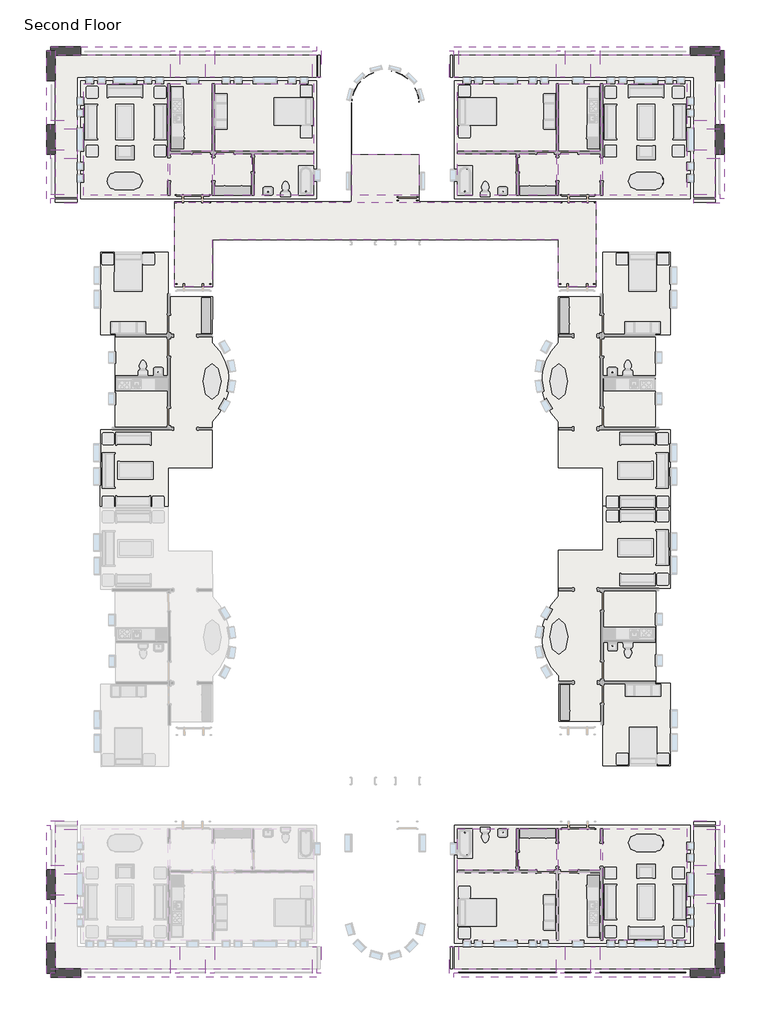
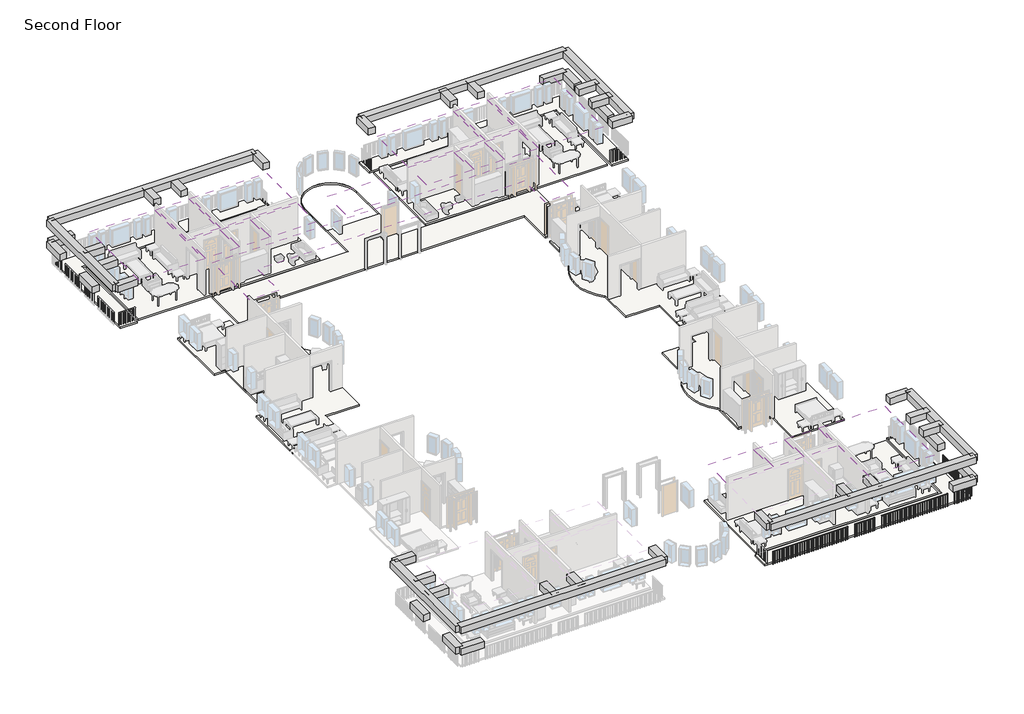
# One storey, part 4 of 6: 44 beams, 18 coverings, 10 slabs, 6 railings.
"""IFC4 building model written with IfcOpenShell, lengths in millimetres."""

from ifc_helpers import new_model, si_unit, point, frame, frame_2d, origin, place, context, project, spatial, polyline, circle_curve, trimmed, segment, composite_curve, outline, extrude, transform, mapped, element, save
from components import handrail_rectangular_774f5da6, handrail_rectangular_a4098ada, handrail_rectangular_c54c8a6b, handrail_rectangular_bb34a243, handrail_rectangular_81c71ed5, handrail_rectangular_95a948e3

model = new_model("IFC4")

# Units and contexts
model_context = context("Model", 3, world=origin())
ifc_project = project(units=[si_unit("LENGTHUNIT", "METRE", prefix="MILLI")], contexts=[model_context])

# Site, building, storey
site = spatial("IfcSite", under=ifc_project)
building = spatial("IfcBuilding", under=site)
storey = spatial("IfcBuildingStorey", under=building, Name="Second Floor", Elevation=3048.0)

# Beams
placement = place(None, origin())
element("IfcBeam", 1, ObjectType="Concrete-Rectangular Beam : 18 x 18", at=placement, inside=storey, context=model_context, shape_type="SweptSolid", body=[
    extrude(outline(polyline([(2322.5410437, -35349.9683133), (2322.5410437, -35807.1683133), (-11393.4589563, -35807.1683133), (-11393.4589563, -35349.9683133), (2322.5410437, -35349.9683133)])), frame((0.0, 0.0, 5638.8), z_axis=(0.0, 0.0, 1.0), x_axis=(1.0, 0.0, 0.0)), (0.0, 0.0, 1.0), 457.2),
])
element("IfcBeam", 2, ObjectType="Concrete-Rectangular Beam : 18 x 18", at=placement, inside=storey, context=model_context, shape_type="SweptSolid", body=[
    extrude(outline(polyline([(2093.9410437, -27958.5683133), (2551.1410437, -27958.5683133), (2551.1410437, -35578.5683133), (2093.9410437, -35578.5683133), (2093.9410437, -27958.5683133)])), frame((0.0, 0.0, 5638.8), z_axis=(0.0, 0.0, 1.0), x_axis=(1.0, 0.0, 0.0)), (0.0, 0.0, 1.0), 457.2),
])
element("IfcBeam", 3, ObjectType="Concrete-Rectangular Beam : 18 x 18", at=placement, inside=storey, context=model_context, shape_type="SweptSolid", body=[
    extrude(outline(polyline([(-11622.0589563, -34232.3683133), (-11164.8589563, -34232.3683133), (-11164.8589563, -35578.5683133), (-11622.0589563, -35578.5683133), (-11622.0589563, -34232.3683133)])), frame((0.0, 0.0, 5638.8), z_axis=(0.0, 0.0, 1.0), x_axis=(1.0, 0.0, 0.0)), (0.0, 0.0, 1.0), 457.2),
])
element("IfcBeam", 4, ObjectType="Concrete-Rectangular Beam : 18 x 18", at=placement, inside=storey, context=model_context, shape_type="SweptSolid", body=[
    extrude(outline(polyline([(976.3410437, -28187.1683133), (976.3410437, -27729.9683133), (2322.5410437, -27729.9683133), (2322.5410437, -28187.1683133), (976.3410437, -28187.1683133)])), frame((0.0, 0.0, 5638.8), z_axis=(0.0, 0.0, 1.0), x_axis=(1.0, 0.0, 0.0)), (0.0, 0.0, 1.0), 457.2),
])
element("IfcBeam", 5, ObjectType="Concrete-Rectangular Beam : 18 x 18", at=placement, inside=storey, context=model_context, shape_type="SweptSolid", body=[
    extrude(outline(polyline([(798.5410437, -35807.1683133), (798.5410437, -35349.9683133), (2322.5410437, -35349.9683133), (2322.5410437, -35807.1683133), (798.5410437, -35807.1683133)])), frame((0.0, 0.0, 4114.8), z_axis=(0.0, 0.0, 1.0), x_axis=(1.0, 0.0, 0.0)), (0.0, 0.0, 1.0), 457.2),
])
element("IfcBeam", 6, ObjectType="Concrete-Rectangular Beam : 18 x 18", at=placement, inside=storey, context=model_context, shape_type="SweptSolid", body=[
    extrude(outline(polyline([(2093.9410437, -34054.5683133), (2551.1410437, -34054.5683133), (2551.1410437, -35578.5683133), (2093.9410437, -35578.5683133), (2093.9410437, -34054.5683133)])), frame((0.0, 0.0, 4114.8), z_axis=(0.0, 0.0, 1.0), x_axis=(1.0, 0.0, 0.0)), (0.0, 0.0, 1.0), 457.2),
])
element("IfcBeam", 7, ObjectType="Concrete-Rectangular Beam : 18 x 18", at=placement, inside=storey, context=model_context, shape_type="SweptSolid", body=[
    extrude(outline(polyline([(2093.9410437, -30244.5683133), (2551.1410437, -30244.5683133), (2551.1410437, -31768.5683133), (2093.9410437, -31768.5683133), (2093.9410437, -30244.5683133)])), frame((0.0, 0.0, 4114.8), z_axis=(0.0, 0.0, 1.0), x_axis=(1.0, 0.0, 0.0)), (0.0, 0.0, 1.0), 457.2),
])
element("IfcBeam", 8, ObjectType="Concrete-Rectangular Beam : 18 x 18", at=placement, inside=storey, context=model_context, shape_type="SweptSolid", body=[
    extrude(outline(polyline([(-6122.9589563, -34232.3683133), (-5665.7589563, -34232.3683133), (-5665.7589563, -35578.5683133), (-6122.9589563, -35578.5683133), (-6122.9589563, -34232.3683133)])), frame((0.0, 0.0, 5638.8), z_axis=(0.0, 0.0, 1.0), x_axis=(1.0, 0.0, 0.0)), (0.0, 0.0, 1.0), 457.2),
])
element("IfcBeam", 9, ObjectType="Concrete-Rectangular Beam : 18 x 18", at=placement, inside=storey, context=model_context, shape_type="SweptSolid", body=[
    extrude(outline(polyline([(-4319.5589563, -34232.3683133), (-3862.3589563, -34232.3683133), (-3862.3589563, -35578.5683133), (-4319.5589563, -35578.5683133), (-4319.5589563, -34232.3683133)])), frame((0.0, 0.0, 5638.8), z_axis=(0.0, 0.0, 1.0), x_axis=(1.0, 0.0, 0.0)), (0.0, 0.0, 1.0), 457.2),
])
element("IfcBeam", 10, ObjectType="Concrete-Rectangular Beam : 18 x 18", at=placement, inside=storey, context=model_context, shape_type="SweptSolid", body=[
    extrude(outline(polyline([(976.3410437, -30473.1683133), (976.3410437, -30015.9683133), (2322.5410437, -30015.9683133), (2322.5410437, -30473.1683133), (976.3410437, -30473.1683133)])), frame((0.0, 0.0, 5638.8), z_axis=(0.0, 0.0, 1.0), x_axis=(1.0, 0.0, 0.0)), (0.0, 0.0, 1.0), 457.2),
])
element("IfcBeam", 11, ObjectType="Concrete-Rectangular Beam : 18 x 18", at=placement, inside=storey, context=model_context, shape_type="SweptSolid", body=[
    extrude(outline(polyline([(976.3410437, -31997.1683133), (976.3410437, -31539.9683133), (2322.5410437, -31539.9683133), (2322.5410437, -31997.1683133), (976.3410437, -31997.1683133)])), frame((0.0, 0.0, 5638.8), z_axis=(0.0, 0.0, 1.0), x_axis=(1.0, 0.0, 0.0)), (0.0, 0.0, 1.0), 457.2),
])
element("IfcBeam", 12, ObjectType="Concrete-Rectangular Beam : 18 x 18", at=placement, inside=storey, context=model_context, shape_type="SweptSolid", body=[
    extrude(outline(polyline([(-32192.8839563, -35807.1683133), (-32192.8839563, -35349.9683133), (-18476.8839563, -35349.9683133), (-18476.8839563, -35807.1683133), (-32192.8839563, -35807.1683133)])), frame((0.0, 0.0, 5638.8), z_axis=(0.0, 0.0, 1.0), x_axis=(1.0, 0.0, 0.0)), (0.0, 0.0, 1.0), 457.2),
])
element("IfcBeam", 13, ObjectType="Concrete-Rectangular Beam : 18 x 18", at=placement, inside=storey, context=model_context, shape_type="SweptSolid", body=[
    extrude(outline(polyline([(-32421.4839563, -27958.5683133), (-31964.2839563, -27958.5683133), (-31964.2839563, -35578.5683133), (-32421.4839563, -35578.5683133), (-32421.4839563, -27958.5683133)])), frame((0.0, 0.0, 5638.8), z_axis=(0.0, 0.0, 1.0), x_axis=(1.0, 0.0, 0.0)), (0.0, 0.0, 1.0), 457.2),
])
element("IfcBeam", 14, ObjectType="Concrete-Rectangular Beam : 18 x 18", at=placement, inside=storey, context=model_context, shape_type="SweptSolid", body=[
    extrude(outline(polyline([(-18705.4839563, -34232.3683133), (-18248.2839563, -34232.3683133), (-18248.2839563, -35578.5683133), (-18705.4839563, -35578.5683133), (-18705.4839563, -34232.3683133)])), frame((0.0, 0.0, 5638.8), z_axis=(0.0, 0.0, 1.0), x_axis=(1.0, 0.0, 0.0)), (0.0, 0.0, 1.0), 457.2),
])
element("IfcBeam", 15, ObjectType="Concrete-Rectangular Beam : 18 x 18", at=placement, inside=storey, context=model_context, shape_type="SweptSolid", body=[
    extrude(outline(polyline([(-30846.6839563, -27729.9683133), (-30846.6839563, -28187.1683133), (-32192.8839563, -28187.1683133), (-32192.8839563, -27729.9683133), (-30846.6839563, -27729.9683133)])), frame((0.0, 0.0, 5638.8), z_axis=(0.0, 0.0, 1.0), x_axis=(1.0, 0.0, 0.0)), (0.0, 0.0, 1.0), 457.2),
])
element("IfcBeam", 16, ObjectType="Concrete-Rectangular Beam : 18 x 18", at=placement, inside=storey, context=model_context, shape_type="SweptSolid", body=[
    extrude(outline(polyline([(-30668.8839563, -35349.9683133), (-30668.8839563, -35807.1683133), (-32192.8839563, -35807.1683133), (-32192.8839563, -35349.9683133), (-30668.8839563, -35349.9683133)])), frame((0.0, 0.0, 4114.8), z_axis=(0.0, 0.0, 1.0), x_axis=(1.0, 0.0, 0.0)), (0.0, 0.0, 1.0), 457.2),
])
element("IfcBeam", 17, ObjectType="Concrete-Rectangular Beam : 18 x 18", at=placement, inside=storey, context=model_context, shape_type="SweptSolid", body=[
    extrude(outline(polyline([(-32421.4839563, -34054.5683133), (-31964.2839563, -34054.5683133), (-31964.2839563, -35578.5683133), (-32421.4839563, -35578.5683133), (-32421.4839563, -34054.5683133)])), frame((0.0, 0.0, 4114.8), z_axis=(0.0, 0.0, 1.0), x_axis=(1.0, 0.0, 0.0)), (0.0, 0.0, 1.0), 457.2),
])
element("IfcBeam", 18, ObjectType="Concrete-Rectangular Beam : 18 x 18", at=placement, inside=storey, context=model_context, shape_type="SweptSolid", body=[
    extrude(outline(polyline([(-32421.4839563, -30244.5683133), (-31964.2839563, -30244.5683133), (-31964.2839563, -31768.5683133), (-32421.4839563, -31768.5683133), (-32421.4839563, -30244.5683133)])), frame((0.0, 0.0, 4114.8), z_axis=(0.0, 0.0, 1.0), x_axis=(1.0, 0.0, 0.0)), (0.0, 0.0, 1.0), 457.2),
])
element("IfcBeam", 19, ObjectType="Concrete-Rectangular Beam : 18 x 18", at=placement, inside=storey, context=model_context, shape_type="SweptSolid", body=[
    extrude(outline(polyline([(-24204.5839563, -34232.3683133), (-23747.3839563, -34232.3683133), (-23747.3839563, -35578.5683133), (-24204.5839563, -35578.5683133), (-24204.5839563, -34232.3683133)])), frame((0.0, 0.0, 5638.8), z_axis=(0.0, 0.0, 1.0), x_axis=(1.0, 0.0, 0.0)), (0.0, 0.0, 1.0), 457.2),
])
element("IfcBeam", 20, ObjectType="Concrete-Rectangular Beam : 18 x 18", at=placement, inside=storey, context=model_context, shape_type="SweptSolid", body=[
    extrude(outline(polyline([(-26007.9839563, -34232.3683133), (-25550.7839563, -34232.3683133), (-25550.7839563, -35578.5683133), (-26007.9839563, -35578.5683133), (-26007.9839563, -34232.3683133)])), frame((0.0, 0.0, 5638.8), z_axis=(0.0, 0.0, 1.0), x_axis=(1.0, 0.0, 0.0)), (0.0, 0.0, 1.0), 457.2),
])
element("IfcBeam", 21, ObjectType="Concrete-Rectangular Beam : 18 x 18", at=placement, inside=storey, context=model_context, shape_type="SweptSolid", body=[
    extrude(outline(polyline([(-30846.6839563, -30015.9683133), (-30846.6839563, -30473.1683133), (-32192.8839563, -30473.1683133), (-32192.8839563, -30015.9683133), (-30846.6839563, -30015.9683133)])), frame((0.0, 0.0, 5638.8), z_axis=(0.0, 0.0, 1.0), x_axis=(1.0, 0.0, 0.0)), (0.0, 0.0, 1.0), 457.2),
])
element("IfcBeam", 22, ObjectType="Concrete-Rectangular Beam : 18 x 18", at=placement, inside=storey, context=model_context, shape_type="SweptSolid", body=[
    extrude(outline(polyline([(-30846.6839563, -31539.9683133), (-30846.6839563, -31997.1683133), (-32192.8839563, -31997.1683133), (-32192.8839563, -31539.9683133), (-30846.6839563, -31539.9683133)])), frame((0.0, 0.0, 5638.8), z_axis=(0.0, 0.0, 1.0), x_axis=(1.0, 0.0, 0.0)), (0.0, 0.0, 1.0), 457.2),
])
element("IfcBeam", 23, ObjectType="Concrete-Rectangular Beam : 18 x 18", at=placement, inside=storey, context=model_context, shape_type="SweptSolid", body=[
    extrude(outline(polyline([(2322.5410437, 12198.8316867), (2322.5410437, 11741.6316867), (-11393.4589563, 11741.6316867), (-11393.4589563, 12198.8316867), (2322.5410437, 12198.8316867)])), frame((0.0, 0.0, 5638.8), z_axis=(0.0, 0.0, 1.0), x_axis=(1.0, 0.0, 0.0)), (0.0, 0.0, 1.0), 457.2),
])
element("IfcBeam", 24, ObjectType="Concrete-Rectangular Beam : 18 x 18", at=placement, inside=storey, context=model_context, shape_type="SweptSolid", body=[
    extrude(outline(polyline([(2551.1410437, 4350.2316867), (2093.9410437, 4350.2316867), (2093.9410437, 11970.2316867), (2551.1410437, 11970.2316867), (2551.1410437, 4350.2316867)])), frame((0.0, 0.0, 5638.8), z_axis=(0.0, 0.0, 1.0), x_axis=(1.0, 0.0, 0.0)), (0.0, 0.0, 1.0), 457.2),
])
element("IfcBeam", 25, ObjectType="Concrete-Rectangular Beam : 18 x 18", at=placement, inside=storey, context=model_context, shape_type="SweptSolid", body=[
    extrude(outline(polyline([(-11164.8589563, 10624.0316867), (-11622.0589563, 10624.0316867), (-11622.0589563, 11970.2316867), (-11164.8589563, 11970.2316867), (-11164.8589563, 10624.0316867)])), frame((0.0, 0.0, 5638.8), z_axis=(0.0, 0.0, 1.0), x_axis=(1.0, 0.0, 0.0)), (0.0, 0.0, 1.0), 457.2),
])
element("IfcBeam", 26, ObjectType="Concrete-Rectangular Beam : 18 x 18", at=placement, inside=storey, context=model_context, shape_type="SweptSolid", body=[
    extrude(outline(polyline([(976.3410437, 4121.6316867), (976.3410437, 4578.8316867), (2322.5410437, 4578.8316867), (2322.5410437, 4121.6316867), (976.3410437, 4121.6316867)])), frame((0.0, 0.0, 5638.8), z_axis=(0.0, 0.0, 1.0), x_axis=(1.0, 0.0, 0.0)), (0.0, 0.0, 1.0), 457.2),
])
element("IfcBeam", 27, ObjectType="Concrete-Rectangular Beam : 18 x 18", at=placement, inside=storey, context=model_context, shape_type="SweptSolid", body=[
    extrude(outline(polyline([(798.5410437, 11741.6316867), (798.5410437, 12198.8316867), (2322.5410437, 12198.8316867), (2322.5410437, 11741.6316867), (798.5410437, 11741.6316867)])), frame((0.0, 0.0, 4114.8), z_axis=(0.0, 0.0, 1.0), x_axis=(1.0, 0.0, 0.0)), (0.0, 0.0, 1.0), 457.2),
])
element("IfcBeam", 28, ObjectType="Concrete-Rectangular Beam : 18 x 18", at=placement, inside=storey, context=model_context, shape_type="SweptSolid", body=[
    extrude(outline(polyline([(2551.1410437, 10446.2316867), (2093.9410437, 10446.2316867), (2093.9410437, 11970.2316867), (2551.1410437, 11970.2316867), (2551.1410437, 10446.2316867)])), frame((0.0, 0.0, 4114.8), z_axis=(0.0, 0.0, 1.0), x_axis=(1.0, 0.0, 0.0)), (0.0, 0.0, 1.0), 457.2),
])
element("IfcBeam", 29, ObjectType="Concrete-Rectangular Beam : 18 x 18", at=placement, inside=storey, context=model_context, shape_type="SweptSolid", body=[
    extrude(outline(polyline([(2551.1410437, 6636.2316867), (2093.9410437, 6636.2316867), (2093.9410437, 8160.2316867), (2551.1410437, 8160.2316867), (2551.1410437, 6636.2316867)])), frame((0.0, 0.0, 4114.8), z_axis=(0.0, 0.0, 1.0), x_axis=(1.0, 0.0, 0.0)), (0.0, 0.0, 1.0), 457.2),
])
element("IfcBeam", 30, ObjectType="Concrete-Rectangular Beam : 18 x 18", at=placement, inside=storey, context=model_context, shape_type="SweptSolid", body=[
    extrude(outline(polyline([(-5665.7589563, 10624.0316867), (-6122.9589563, 10624.0316867), (-6122.9589563, 11970.2316867), (-5665.7589563, 11970.2316867), (-5665.7589563, 10624.0316867)])), frame((0.0, 0.0, 5638.8), z_axis=(0.0, 0.0, 1.0), x_axis=(1.0, 0.0, 0.0)), (0.0, 0.0, 1.0), 457.2),
])
element("IfcBeam", 31, ObjectType="Concrete-Rectangular Beam : 18 x 18", at=placement, inside=storey, context=model_context, shape_type="SweptSolid", body=[
    extrude(outline(polyline([(-3862.3589563, 10624.0316867), (-4319.5589563, 10624.0316867), (-4319.5589563, 11970.2316867), (-3862.3589563, 11970.2316867), (-3862.3589563, 10624.0316867)])), frame((0.0, 0.0, 5638.8), z_axis=(0.0, 0.0, 1.0), x_axis=(1.0, 0.0, 0.0)), (0.0, 0.0, 1.0), 457.2),
])
element("IfcBeam", 32, ObjectType="Concrete-Rectangular Beam : 18 x 18", at=placement, inside=storey, context=model_context, shape_type="SweptSolid", body=[
    extrude(outline(polyline([(976.3410437, 6407.6316867), (976.3410437, 6864.8316867), (2322.5410437, 6864.8316867), (2322.5410437, 6407.6316867), (976.3410437, 6407.6316867)])), frame((0.0, 0.0, 5638.8), z_axis=(0.0, 0.0, 1.0), x_axis=(1.0, 0.0, 0.0)), (0.0, 0.0, 1.0), 457.2),
])
element("IfcBeam", 33, ObjectType="Concrete-Rectangular Beam : 18 x 18", at=placement, inside=storey, context=model_context, shape_type="SweptSolid", body=[
    extrude(outline(polyline([(976.3410437, 7931.6316867), (976.3410437, 8388.8316867), (2322.5410437, 8388.8316867), (2322.5410437, 7931.6316867), (976.3410437, 7931.6316867)])), frame((0.0, 0.0, 5638.8), z_axis=(0.0, 0.0, 1.0), x_axis=(1.0, 0.0, 0.0)), (0.0, 0.0, 1.0), 457.2),
])
element("IfcBeam", 34, ObjectType="Concrete-Rectangular Beam : 18 x 18", at=placement, inside=storey, context=model_context, shape_type="SweptSolid", body=[
    extrude(outline(polyline([(-32192.8839563, 11741.6316867), (-32192.8839563, 12198.8316867), (-18476.8839563, 12198.8316867), (-18476.8839563, 11741.6316867), (-32192.8839563, 11741.6316867)])), frame((0.0, 0.0, 5638.8), z_axis=(0.0, 0.0, 1.0), x_axis=(1.0, 0.0, 0.0)), (0.0, 0.0, 1.0), 457.2),
])
element("IfcBeam", 35, ObjectType="Concrete-Rectangular Beam : 18 x 18", at=placement, inside=storey, context=model_context, shape_type="SweptSolid", body=[
    extrude(outline(polyline([(-31964.2839563, 4350.2316867), (-32421.4839563, 4350.2316867), (-32421.4839563, 11970.2316867), (-31964.2839563, 11970.2316867), (-31964.2839563, 4350.2316867)])), frame((0.0, 0.0, 5638.8), z_axis=(0.0, 0.0, 1.0), x_axis=(1.0, 0.0, 0.0)), (0.0, 0.0, 1.0), 457.2),
])
element("IfcBeam", 36, ObjectType="Concrete-Rectangular Beam : 18 x 18", at=placement, inside=storey, context=model_context, shape_type="SweptSolid", body=[
    extrude(outline(polyline([(-18248.2839563, 10624.0316867), (-18705.4839563, 10624.0316867), (-18705.4839563, 11970.2316867), (-18248.2839563, 11970.2316867), (-18248.2839563, 10624.0316867)])), frame((0.0, 0.0, 5638.8), z_axis=(0.0, 0.0, 1.0), x_axis=(1.0, 0.0, 0.0)), (0.0, 0.0, 1.0), 457.2),
])
element("IfcBeam", 37, ObjectType="Concrete-Rectangular Beam : 18 x 18", at=placement, inside=storey, context=model_context, shape_type="SweptSolid", body=[
    extrude(outline(polyline([(-30846.6839563, 4578.8316867), (-30846.6839563, 4121.6316867), (-32192.8839563, 4121.6316867), (-32192.8839563, 4578.8316867), (-30846.6839563, 4578.8316867)])), frame((0.0, 0.0, 5638.8), z_axis=(0.0, 0.0, 1.0), x_axis=(1.0, 0.0, 0.0)), (0.0, 0.0, 1.0), 457.2),
])
element("IfcBeam", 38, ObjectType="Concrete-Rectangular Beam : 18 x 18", at=placement, inside=storey, context=model_context, shape_type="SweptSolid", body=[
    extrude(outline(polyline([(-30668.8839563, 12198.8316867), (-30668.8839563, 11741.6316867), (-32192.8839563, 11741.6316867), (-32192.8839563, 12198.8316867), (-30668.8839563, 12198.8316867)])), frame((0.0, 0.0, 4114.8), z_axis=(0.0, 0.0, 1.0), x_axis=(1.0, 0.0, 0.0)), (0.0, 0.0, 1.0), 457.2),
])
element("IfcBeam", 39, ObjectType="Concrete-Rectangular Beam : 18 x 18", at=placement, inside=storey, context=model_context, shape_type="SweptSolid", body=[
    extrude(outline(polyline([(-31964.2839563, 10446.2316867), (-32421.4839563, 10446.2316867), (-32421.4839563, 11970.2316867), (-31964.2839563, 11970.2316867), (-31964.2839563, 10446.2316867)])), frame((0.0, 0.0, 4114.8), z_axis=(0.0, 0.0, 1.0), x_axis=(1.0, 0.0, 0.0)), (0.0, 0.0, 1.0), 457.2),
])
element("IfcBeam", 40, ObjectType="Concrete-Rectangular Beam : 18 x 18", at=placement, inside=storey, context=model_context, shape_type="SweptSolid", body=[
    extrude(outline(polyline([(-31964.2839563, 6636.2316867), (-32421.4839563, 6636.2316867), (-32421.4839563, 8160.2316867), (-31964.2839563, 8160.2316867), (-31964.2839563, 6636.2316867)])), frame((0.0, 0.0, 4114.8), z_axis=(0.0, 0.0, 1.0), x_axis=(1.0, 0.0, 0.0)), (0.0, 0.0, 1.0), 457.2),
])
element("IfcBeam", 41, ObjectType="Concrete-Rectangular Beam : 18 x 18", at=placement, inside=storey, context=model_context, shape_type="SweptSolid", body=[
    extrude(outline(polyline([(-23747.3839563, 10624.0316867), (-24204.5839563, 10624.0316867), (-24204.5839563, 11970.2316867), (-23747.3839563, 11970.2316867), (-23747.3839563, 10624.0316867)])), frame((0.0, 0.0, 5638.8), z_axis=(0.0, 0.0, 1.0), x_axis=(1.0, 0.0, 0.0)), (0.0, 0.0, 1.0), 457.2),
])
element("IfcBeam", 42, ObjectType="Concrete-Rectangular Beam : 18 x 18", at=placement, inside=storey, context=model_context, shape_type="SweptSolid", body=[
    extrude(outline(polyline([(-25550.7839563, 10624.0316867), (-26007.9839563, 10624.0316867), (-26007.9839563, 11970.2316867), (-25550.7839563, 11970.2316867), (-25550.7839563, 10624.0316867)])), frame((0.0, 0.0, 5638.8), z_axis=(0.0, 0.0, 1.0), x_axis=(1.0, 0.0, 0.0)), (0.0, 0.0, 1.0), 457.2),
])
element("IfcBeam", 43, ObjectType="Concrete-Rectangular Beam : 18 x 18", at=placement, inside=storey, context=model_context, shape_type="SweptSolid", body=[
    extrude(outline(polyline([(-30846.6839563, 6864.8316867), (-30846.6839563, 6407.6316867), (-32192.8839563, 6407.6316867), (-32192.8839563, 6864.8316867), (-30846.6839563, 6864.8316867)])), frame((0.0, 0.0, 5638.8), z_axis=(0.0, 0.0, 1.0), x_axis=(1.0, 0.0, 0.0)), (0.0, 0.0, 1.0), 457.2),
])
element("IfcBeam", 44, ObjectType="Concrete-Rectangular Beam : 18 x 18", at=placement, inside=storey, context=model_context, shape_type="SweptSolid", body=[
    extrude(outline(polyline([(-30846.6839563, 8388.8316867), (-30846.6839563, 7931.6316867), (-32192.8839563, 7931.6316867), (-32192.8839563, 8388.8316867), (-30846.6839563, 8388.8316867)])), frame((0.0, 0.0, 5638.8), z_axis=(0.0, 0.0, 1.0), x_axis=(1.0, 0.0, 0.0)), (0.0, 0.0, 1.0), 457.2),
])

# Coverings
element("IfcCovering", 45, ObjectType="GWB on Mtl. Stud", at=placement, inside=storey, context=model_context, shape_type="SweptSolid", body=[
    extrude(outline(polyline([(-11217.2464563, 10270.0191867), (-6122.9589563, 10270.0191867), (-6122.9589563, 6787.0441867), (-11217.2464563, 6787.0441867), (-11217.2464563, 10270.0191867)])), frame((0.0, 0.0, 5638.8), z_axis=(0.0, 0.0, 1.0), x_axis=(1.0, 0.0, 0.0)), (0.0, 0.0, 1.0), 107.95),
])
element("IfcCovering", 46, ObjectType="GWB on Mtl. Stud", at=placement, inside=storey, context=model_context, shape_type="SweptSolid", body=[
    extrude(outline(polyline([(-5995.9589563, 6787.0441867), (-5995.9589563, 10270.0191867), (-3836.9589563, 10270.0191867), (-3836.9589563, 6787.0441867), (-5995.9589563, 6787.0441867)])), frame((0.0, 0.0, 5638.8), z_axis=(0.0, 0.0, 1.0), x_axis=(1.0, 0.0, 0.0)), (0.0, 0.0, 1.0), 107.95),
])
element("IfcCovering", 47, ObjectType="GWB on Mtl. Stud", at=placement, inside=storey, context=model_context, shape_type="SweptSolid", body=[
    extrude(outline(polyline([(-3709.9589563, 4526.4441867), (-3709.9589563, 10270.0191867), (622.3285437, 10270.0191867), (622.3285437, 4526.4441867), (-3709.9589563, 4526.4441867)])), frame((0.0, 0.0, 5638.8), z_axis=(0.0, 0.0, 1.0), x_axis=(1.0, 0.0, 0.0)), (0.0, 0.0, 1.0), 107.95),
])
element("IfcCovering", 48, ObjectType="GWB on Mtl. Stud", at=placement, inside=storey, context=model_context, shape_type="SweptSolid", body=[
    extrude(outline(polyline([(-3836.9589563, 4526.4441867), (-5995.9589563, 4526.4441867), (-5995.9589563, 6660.0441867), (-3836.9589563, 6660.0441867), (-3836.9589563, 4526.4441867)])), frame((0.0, 0.0, 5638.8), z_axis=(0.0, 0.0, 1.0), x_axis=(1.0, 0.0, 0.0)), (0.0, 0.0, 1.0), 107.95),
])
element("IfcCovering", 49, ObjectType="GWB on Mtl. Stud", at=placement, inside=storey, context=model_context, shape_type="SweptSolid", body=[
    extrude(outline(polyline([(-6122.9589563, 4526.4441867), (-8042.2464563, 4526.4441867), (-8042.2464563, 6660.0441867), (-6122.9589563, 6660.0441867), (-6122.9589563, 4526.4441867)])), frame((0.0, 0.0, 5638.8), z_axis=(0.0, 0.0, 1.0), x_axis=(1.0, 0.0, 0.0)), (0.0, 0.0, 1.0), 107.95),
])
element("IfcCovering", 50, ObjectType="GWB on Mtl. Stud", at=placement, inside=storey, context=model_context, shape_type="SweptSolid", body=[
    extrude(outline(polyline([(-8169.2464563, 6660.0441867), (-8169.2464563, 4526.4441867), (-11217.2464563, 4526.4441867), (-11217.2464563, 6660.0441867), (-8169.2464563, 6660.0441867)])), frame((0.0, 0.0, 5638.8), z_axis=(0.0, 0.0, 1.0), x_axis=(1.0, 0.0, 0.0)), (0.0, 0.0, 1.0), 107.95),
])
element("IfcCovering", 51, ObjectType="GWB on Mtl. Stud", at=placement, inside=storey, context=model_context, shape_type="SweptSolid", body=[
    extrude(outline(polyline([(-13206.3839563, 4526.4441867), (-16663.9589563, 4526.4441867), (-16663.9589563, 6636.2316867), (-13206.3839563, 6636.2316867), (-13206.3839563, 4526.4441867)])), frame((0.0, 0.0, 5486.4), z_axis=(0.0, 0.0, 1.0), x_axis=(1.0, 0.0, 0.0)), (0.0, 0.0, 1.0), 107.95),
])
element("IfcCovering", 52, ObjectType="GWB on Mtl. Stud", at=placement, inside=storey, context=model_context, shape_type="SweptSolid", body=[
    extrude(outline(polyline([(-5995.9589563, -197.9558133), (-5995.9589563, 2240.4441867), (-23874.3839563, 2240.4441867), (-23874.3839563, -197.9558133), (-25807.9589563, -197.9558133), (-25807.9589563, 4174.0191867), (-4062.3839563, 4174.0191867), (-4062.3839563, -197.9558133), (-5995.9589563, -197.9558133)])), frame((0.0, 0.0, 5486.4), z_axis=(0.0, 0.0, 1.0), x_axis=(1.0, 0.0, 0.0)), (0.0, 0.0, 1.0), 107.95),
])
element("IfcCovering", 53, ObjectType="GWB on Mtl. Stud", at=placement, inside=storey, context=model_context, shape_type="SweptSolid", body=[
    extrude(outline(polyline([(-18653.0964563, 10270.0191867), (-18653.0964563, 6787.0441867), (-23747.3839563, 6787.0441867), (-23747.3839563, 10270.0191867), (-18653.0964563, 10270.0191867)])), frame((0.0, 0.0, 5638.8), z_axis=(0.0, 0.0, 1.0), x_axis=(1.0, 0.0, 0.0)), (0.0, 0.0, 1.0), 107.95),
])
element("IfcCovering", 54, ObjectType="GWB on Mtl. Stud", at=placement, inside=storey, context=model_context, shape_type="SweptSolid", body=[
    extrude(outline(polyline([(-23874.3839563, 6787.0441867), (-26033.3839563, 6787.0441867), (-26033.3839563, 10270.0191867), (-23874.3839563, 10270.0191867), (-23874.3839563, 6787.0441867)])), frame((0.0, 0.0, 5638.8), z_axis=(0.0, 0.0, 1.0), x_axis=(1.0, 0.0, 0.0)), (0.0, 0.0, 1.0), 107.95),
])
element("IfcCovering", 55, ObjectType="GWB on Mtl. Stud", at=placement, inside=storey, context=model_context, shape_type="SweptSolid", body=[
    extrude(outline(polyline([(-26160.3839563, 4526.4441867), (-30492.6714563, 4526.4441867), (-30492.6714563, 10270.0191867), (-26160.3839563, 10270.0191867), (-26160.3839563, 4526.4441867)])), frame((0.0, 0.0, 5638.8), z_axis=(0.0, 0.0, 1.0), x_axis=(1.0, 0.0, 0.0)), (0.0, 0.0, 1.0), 107.95),
])
element("IfcCovering", 56, ObjectType="GWB on Mtl. Stud", at=placement, inside=storey, context=model_context, shape_type="SweptSolid", body=[
    extrude(outline(polyline([(-26033.3839563, 4526.4441867), (-26033.3839563, 6660.0441867), (-23874.3839563, 6660.0441867), (-23874.3839563, 4526.4441867), (-26033.3839563, 4526.4441867)])), frame((0.0, 0.0, 5638.8), z_axis=(0.0, 0.0, 1.0), x_axis=(1.0, 0.0, 0.0)), (0.0, 0.0, 1.0), 107.95),
])
element("IfcCovering", 57, ObjectType="GWB on Mtl. Stud", at=placement, inside=storey, context=model_context, shape_type="SweptSolid", body=[
    extrude(outline(polyline([(-23747.3839563, 4526.4441867), (-23747.3839563, 6660.0441867), (-21828.0964563, 6660.0441867), (-21828.0964563, 4526.4441867), (-23747.3839563, 4526.4441867)])), frame((0.0, 0.0, 5638.8), z_axis=(0.0, 0.0, 1.0), x_axis=(1.0, 0.0, 0.0)), (0.0, 0.0, 1.0), 107.95),
])
element("IfcCovering", 58, ObjectType="GWB on Mtl. Stud", at=placement, inside=storey, context=model_context, shape_type="SweptSolid", body=[
    extrude(outline(polyline([(-21701.0964563, 6660.0441867), (-18653.0964563, 6660.0441867), (-18653.0964563, 4526.4441867), (-21701.0964563, 4526.4441867), (-21701.0964563, 6660.0441867)])), frame((0.0, 0.0, 5638.8), z_axis=(0.0, 0.0, 1.0), x_axis=(1.0, 0.0, 0.0)), (0.0, 0.0, 1.0), 107.95),
])
element("IfcCovering", 59, ObjectType="GWB on Mtl. Stud", at=placement, inside=storey, context=model_context, shape_type="SweptSolid", body=[
    extrude(outline(polyline([(-3709.9589563, -28134.7808133), (622.3285437, -28134.7808133), (622.3285437, -33878.3558133), (-3709.9589563, -33878.3558133), (-3709.9589563, -28134.7808133)])), frame((0.0, 0.0, 5638.8), z_axis=(0.0, 0.0, 1.0), x_axis=(1.0, 0.0, 0.0)), (0.0, 0.0, 1.0), 107.95),
])
element("IfcCovering", 60, ObjectType="GWB on Mtl. Stud", at=placement, inside=storey, context=model_context, shape_type="SweptSolid", body=[
    extrude(outline(polyline([(-3836.9589563, -28134.7808133), (-3836.9589563, -30268.3808133), (-5995.9589563, -30268.3808133), (-5995.9589563, -28134.7808133), (-3836.9589563, -28134.7808133)])), frame((0.0, 0.0, 5638.8), z_axis=(0.0, 0.0, 1.0), x_axis=(1.0, 0.0, 0.0)), (0.0, 0.0, 1.0), 107.95),
])
element("IfcCovering", 61, ObjectType="GWB on Mtl. Stud", at=placement, inside=storey, context=model_context, shape_type="SweptSolid", body=[
    extrude(outline(polyline([(-6122.9589563, -28134.7808133), (-6122.9589563, -30268.3808133), (-8042.2464563, -30268.3808133), (-8042.2464563, -28134.7808133), (-6122.9589563, -28134.7808133)])), frame((0.0, 0.0, 5638.8), z_axis=(0.0, 0.0, 1.0), x_axis=(1.0, 0.0, 0.0)), (0.0, 0.0, 1.0), 107.95),
])
element("IfcCovering", 62, ObjectType="GWB on Mtl. Stud", at=placement, inside=storey, context=model_context, shape_type="SweptSolid", body=[
    extrude(outline(polyline([(-8169.2464563, -30268.3808133), (-11217.2464563, -30268.3808133), (-11217.2464563, -28134.7808133), (-8169.2464563, -28134.7808133), (-8169.2464563, -30268.3808133)])), frame((0.0, 0.0, 5638.8), z_axis=(0.0, 0.0, 1.0), x_axis=(1.0, 0.0, 0.0)), (0.0, 0.0, 1.0), 107.95),
])

# Railings
handrail_rectangular_shape = handrail_rectangular_774f5da6(model_context)
element("IfcRailing", 63, ObjectType="Handrail - Rectangular", at=placement, inside=storey, context=model_context, shape_type="MappedRepresentation", body=[
    mapped(handrail_rectangular_shape, transform((0.0, 0.0, 0.0), x_axis=(1.0, 0.0, 0.0), y_axis=(0.0, 1.0, 0.0), z_axis=(0.0, 0.0, 1.0))),
])
handrail_rectangular_2_shape = handrail_rectangular_a4098ada(model_context)
element("IfcRailing", 64, ObjectType="Handrail - Rectangular", at=placement, inside=storey, context=model_context, shape_type="MappedRepresentation", body=[
    mapped(handrail_rectangular_2_shape, transform((0.0, 0.0, 0.0), x_axis=(1.0, 0.0, 0.0), y_axis=(0.0, 1.0, 0.0), z_axis=(0.0, 0.0, 1.0))),
])
handrail_rectangular_3_shape = handrail_rectangular_c54c8a6b(model_context)
element("IfcRailing", 65, ObjectType="Handrail - Rectangular", at=placement, inside=storey, context=model_context, shape_type="MappedRepresentation", body=[
    mapped(handrail_rectangular_3_shape, transform((0.0, 0.0, 0.0), x_axis=(1.0, 0.0, 0.0), y_axis=(0.0, 1.0, 0.0), z_axis=(0.0, 0.0, 1.0))),
])
handrail_rectangular_4_shape = handrail_rectangular_bb34a243(model_context)
element("IfcRailing", 66, ObjectType="Handrail - Rectangular", at=placement, inside=storey, context=model_context, shape_type="MappedRepresentation", body=[
    mapped(handrail_rectangular_4_shape, transform((0.0, 0.0, 0.0), x_axis=(1.0, 0.0, 0.0), y_axis=(0.0, 1.0, 0.0), z_axis=(0.0, 0.0, 1.0))),
])
handrail_rectangular_5_shape = handrail_rectangular_81c71ed5(model_context)
element("IfcRailing", 67, ObjectType="Handrail - Rectangular", at=placement, inside=storey, context=model_context, shape_type="MappedRepresentation", body=[
    mapped(handrail_rectangular_5_shape, transform((0.0, 0.0, 0.0), x_axis=(1.0, 0.0, 0.0), y_axis=(0.0, 1.0, 0.0), z_axis=(0.0, 0.0, 1.0))),
])
handrail_rectangular_6_shape = handrail_rectangular_95a948e3(model_context)
element("IfcRailing", 68, ObjectType="Handrail - Rectangular", at=placement, inside=storey, context=model_context, shape_type="MappedRepresentation", body=[
    mapped(handrail_rectangular_6_shape, transform((0.0, 0.0, 0.0), x_axis=(1.0, 0.0, 0.0), y_axis=(0.0, 1.0, 0.0), z_axis=(0.0, 0.0, 1.0))),
])

# Slabs
element("IfcSlab", 69, ObjectType="LW Concrete on Metal Deck", at=placement, inside=storey, context=model_context, shape_type="SweptSolid", body=[
    extrude(outline(polyline([(787.4285437, 10435.1191867), (787.4285437, 4361.3441867), (-11382.3464563, 4361.3441867), (-11382.3464563, 10435.1191867), (787.4285437, 10435.1191867)])), frame((0.0, 0.0, 2943.225), z_axis=(0.0, 0.0, 1.0), x_axis=(1.0, 0.0, 0.0)), (0.0, 0.0, 1.0), 104.775),
])
element("IfcSlab", 70, ObjectType="LW Concrete on Metal Deck", at=placement, inside=storey, context=model_context, shape_type="SweptSolid", body=[
    extrude(outline(composite_curve([segment(polyline([(-13193.6839563, 9227.0316867), (-13193.6839563, 4186.7191867), (-4062.3839563, 4186.7191867), (-4062.3839563, -197.9558133), (-6008.6589563, -197.9558133), (-6008.6589563, 2227.7441867), (-23861.6839563, 2227.7441867), (-23861.6839563, -197.9558133), (-25807.9589563, -197.9558133), (-25807.9589563, 4186.7191867), (-16676.6589563, 4186.7191867), (-16676.6589563, 9227.0316867)]), True, "CONTINUOUS"), segment(trimmed(circle_curve(frame_2d((-14935.1714563, 9227.0316867)), 1741.4875), [point((-16676.6589563, 9227.0316867))], [point((-13193.6839563, 9227.0316867))], False, "CARTESIAN"), True, "CONTINUOUS")], self_intersect=False), holes=[composite_curve([segment(polyline([(-16663.9589563, 6636.2316867), (-13206.3839563, 6636.2316867), (-13206.3839563, 9227.0316867)]), True, "CONTINUOUS"), segment(trimmed(circle_curve(frame_2d((-14935.1714563, 9227.0316867)), 1728.7875), [point((-13206.3839563, 9227.0316867))], [point((-16663.9589563, 9227.0316867))], True, "CARTESIAN"), True, "CONTINUOUS"), segment(polyline([(-16663.9589563, 9227.0316867), (-16663.9589563, 6636.2316867)]), True, "CONTINUOUS")], self_intersect=False)]), frame((0.0, 0.0, 2943.225), z_axis=(0.0, 0.0, 1.0), x_axis=(1.0, 0.0, 0.0)), (0.0, 0.0, 1.0), 104.775),
])
element("IfcSlab", 71, ObjectType="LW Concrete on Metal Deck", at=placement, inside=storey, context=model_context, shape_type="SweptSolid", body=[
    extrude(outline(polyline([(-30657.7714563, 10435.1191867), (-18487.9964563, 10435.1191867), (-18487.9964563, 4361.3441867), (-30657.7714563, 4361.3441867), (-30657.7714563, 10435.1191867)])), frame((0.0, 0.0, 2943.225), z_axis=(0.0, 0.0, 1.0), x_axis=(1.0, 0.0, 0.0)), (0.0, 0.0, 1.0), 104.775),
])
element("IfcSlab", 72, ObjectType="LW Concrete on Metal Deck", at=placement, inside=storey, context=model_context, shape_type="SweptSolid", body=[
    extrude(outline(polyline([(2093.9410437, -35349.9683133), (-11569.6714563, -35349.9683133), (-11569.6714563, -34230.7808133), (974.7535437, -34230.7808133), (974.7535437, -27782.3558133), (2093.9410437, -27782.3558133), (2093.9410437, -35349.9683133)])), frame((0.0, 0.0, 2943.225), z_axis=(0.0, 0.0, 1.0), x_axis=(1.0, 0.0, 0.0)), (0.0, 0.0, 1.0), 104.775),
])
element("IfcSlab", 73, ObjectType="LW Concrete on Metal Deck", at=placement, inside=storey, context=model_context, shape_type="SweptSolid", body=[
    extrude(outline(polyline([(787.4285437, -34043.4558133), (-11382.3464563, -34043.4558133), (-11382.3464563, -27969.6808133), (787.4285437, -27969.6808133), (787.4285437, -34043.4558133)])), frame((0.0, 0.0, 2943.225), z_axis=(0.0, 0.0, 1.0), x_axis=(1.0, 0.0, 0.0)), (0.0, 0.0, 1.0), 104.775),
])
element("IfcSlab", 74, ObjectType="LW Concrete on Metal Deck", at=placement, inside=storey, context=model_context, shape_type="SweptSolid", body=[
    extrude(outline(composite_curve([segment(polyline([(-240.9230199, 1586.7324761), (-237.701615, -2658.2413016), (-999.7013956, -2658.8195643), (-995.9836486, -7557.8431536), (-233.983868, -7557.264891), (-230.7624631, -11802.2386686), (-3713.7364602, -11804.8818109), (-3715.4712482, -9518.8824691), (-6001.47059, -9520.6172571), (-6003.2619221, -7160.1074386)]), True, "CONTINUOUS"), segment(trimmed(circle_curve(frame_2d((-3991.621775, -5110.6032635)), 2871.7875), [point((-6003.2619221, -7160.1074386))], [point((-6006.3702387, -3064.1546144))], False, "CARTESIAN"), True, "CONTINUOUS"), segment(polyline([(-6006.3702387, -3064.1546144), (-6008.1615708, -703.6447959), (-3722.162229, -701.9100079), (-3723.897017, 1584.0893338), (-240.9230199, 1586.7324761)]), True, "CONTINUOUS")], self_intersect=False)), frame((0.0, 0.0, 2943.225), z_axis=(0.0, 0.0, 1.0), x_axis=(1.0, 0.0, 0.0)), (0.0, 0.0, 1.0), 104.775),
])
element("IfcSlab", 75, ObjectType="LW Concrete on Metal Deck", at=placement, inside=storey, context=model_context, shape_type="SweptSolid", body=[
    extrude(outline(polyline([(2093.9410437, 11741.6316867), (2093.9410437, 4174.0191867), (974.7535437, 4174.0191867), (974.7535437, 10622.4441867), (-11569.6714563, 10622.4441867), (-11569.6714563, 11741.6316867), (2093.9410437, 11741.6316867)])), frame((0.0, 0.0, 2943.225), z_axis=(0.0, 0.0, 1.0), x_axis=(1.0, 0.0, 0.0)), (0.0, 0.0, 1.0), 104.775),
])
element("IfcSlab", 76, ObjectType="LW Concrete on Metal Deck", at=placement, inside=storey, context=model_context, shape_type="SweptSolid", body=[
    extrude(outline(polyline([(-31964.2839563, 11741.6316867), (-18300.6714563, 11741.6316867), (-18300.6714563, 10622.4441867), (-30845.0964563, 10622.4441867), (-30845.0964563, 4174.0191867), (-31964.2839563, 4174.0191867), (-31964.2839563, 11741.6316867)])), frame((0.0, 0.0, 2943.225), z_axis=(0.0, 0.0, 1.0), x_axis=(1.0, 0.0, 0.0)), (0.0, 0.0, 1.0), 104.775),
])
element("IfcSlab", 77, ObjectType="LW Concrete on Metal Deck", at=placement, inside=storey, context=model_context, shape_type="SweptSolid", body=[
    extrude(outline(composite_curve([segment(polyline([(-29629.4198927, 1586.7324761), (-26146.4458956, 1584.0893338), (-26148.1806836, -701.9100079), (-23862.1813418, -703.6447959), (-23863.972674, -3064.1546144)]), True, "CONTINUOUS"), segment(trimmed(circle_curve(frame_2d((-25878.7211376, -5110.6032635)), 2871.7875), [point((-23863.972674, -3064.1546144))], [point((-23867.0809905, -7160.1074386))], False, "CARTESIAN"), True, "CONTINUOUS"), segment(polyline([(-23867.0809905, -7160.1074386), (-23868.8723227, -9520.6172571), (-26154.8716644, -9518.8824691), (-26156.6064524, -11804.8818109), (-29639.5804495, -11802.2386686), (-29636.3590446, -7557.264891), (-28874.359264, -7557.8431536), (-28870.641517, -2658.8195643), (-29632.6412976, -2658.2413016), (-29629.4198927, 1586.7324761)]), True, "CONTINUOUS")], self_intersect=False)), frame((0.0, 0.0, 2943.225), z_axis=(0.0, 0.0, 1.0), x_axis=(1.0, 0.0, 0.0)), (0.0, 0.0, 1.0), 104.775),
])
element("IfcSlab", 78, ObjectType="LW Concrete on Metal Deck", at=placement, inside=storey, context=model_context, shape_type="SweptSolid", body=[
    extrude(outline(composite_curve([segment(polyline([(-220.8330845, -24886.5771888), (-3703.8070816, -24889.220331), (-3705.5418696, -22603.2209892), (-5991.5412113, -22604.9557772), (-5993.3325434, -20244.4459587)]), True, "CONTINUOUS"), segment(trimmed(circle_curve(frame_2d((-3981.6923964, -18194.9417836)), 2871.7875), [point((-5993.3325434, -20244.4459587))], [point((-5996.44086, -16148.4931345))], False, "CARTESIAN"), True, "CONTINUOUS"), segment(polyline([(-5996.44086, -16148.4931345), (-5998.2321921, -13787.983316), (-3712.2328504, -13786.248528), (-3713.9676383, -11500.2491863), (-230.9936413, -11497.606044), (-227.7722364, -15742.5798217), (-989.772017, -15743.1580844), (-986.05427, -20642.1816737), (-224.0544894, -20641.6034111), (-220.8330845, -24886.5771888)]), True, "CONTINUOUS")], self_intersect=False)), frame((0.0, 0.0, 2943.225), z_axis=(0.0, 0.0, 1.0), x_axis=(1.0, 0.0, 0.0)), (0.0, 0.0, 1.0), 104.775),
])

save(model, "model.ifc")
